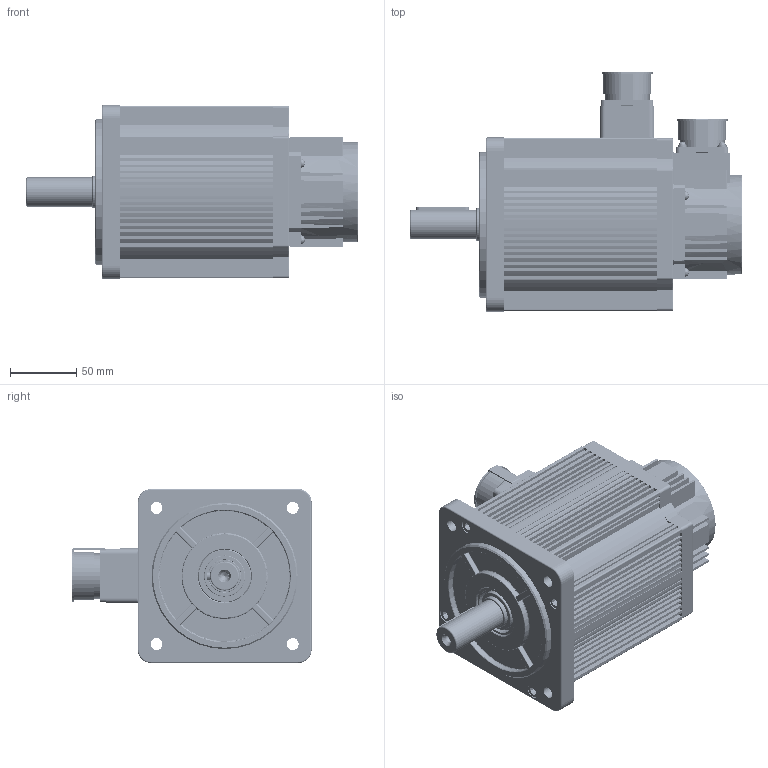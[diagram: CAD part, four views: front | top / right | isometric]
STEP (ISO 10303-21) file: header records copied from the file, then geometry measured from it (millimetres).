
FILE_DESCRIPTION (( 'STEP AP203' ), '1' );
FILE_NAME ('K1-130µç»ú 7.7Nm.STEP', '2019-12-24T01:22:25', ( 'gs' ), ( 'Microsoft' ), 'SwSTEP 2.0', 'SolidWorks 2019', '' );
FILE_SCHEMA (( 'CONFIG_CONTROL_DESIGN' ));
Length unit declared in the file: millimetre
Products named in the file (25): M3X8啋儂; K1-130儂褲樓馱綴7.7Nm; K1-130密封圈; K1-130盄簽砎蝶菜; K1-130 O型密封圈变形后; K1-130隅赽郪璃7.7Nm; K1-130誘欶躇猾菜; K1-130瑤脣15郋; M4X16啋儂; K1-130ヶ傷裔 譙跡; curved single coil spring lock washers gb_GB_FASTENER_WASHER_CSLW 4; M3X12啋儂; K1-130瑤脣雄薯盄; K1-130綴傷裔 譙跡; M3X8囀鞠褒; K1-130す瑩; K1-130萇儂 7.7Nm; K1-130粣7.7Nm; M3す菜; K1-130瑤脣砎蝶菜; K1-130蛌赽郪璃7.7Nm; M6粟菜; K1-130諉盄釱; K1-110晤鎢ん誘欶; M6X20
Assembly tree (70 placements, depth 3):
  K1-130萇儂 7.7Nm
    K1-130隅赽郪璃7.7Nm
      K1-130儂褲樓馱綴7.7Nm
    K1-130ヶ傷裔 譙跡
    K1-130綴傷裔 譙跡
    K1-130蛌赽郪璃7.7Nm
      K1-130粣7.7Nm
    K1-110晤鎢ん誘欶
    K1-130密封圈
    K1-130誘欶躇猾菜
    curved single coil spring lock washers gb_GB_FASTENER_WASHER_CSLW 4  x14
    M3X8囀鞠褒
    M3す菜  x9
    M6粟菜  x8
    M6X20  x8
    K1-130盄簽砎蝶菜  x2
    K1-130瑤脣15郋
    M3X12啋儂  x4
    K1-130す瑩
    K1-130瑤脣砎蝶菜
    K1-130諉盄釱
    M3X8啋儂  x4
    K1-130 O型密封圈变形后  x2
    M4X16啋儂  x4
    K1-130瑤脣雄薯盄
Bounding box: 250 x 180.1 x 131 mm (x, y, z)
Volume: 894772.3 mm3; surface area: 438913.2 mm2
Topology: 70 solids, 72 shells, 3378 faces, 9089 edges, 5973 vertices
Faces by surface type: cylinder 2034, plane 1069, bspline 137, cone 70, torus 68
Entity records: 118547 total; most frequent: CARTESIAN_POINT 64544, ORIENTED_EDGE 11496, DIRECTION 9529, EDGE_CURVE 5748, VERTEX_POINT 3769, AXIS2_PLACEMENT_3D 3369, VECTOR 2791, LINE 2791
